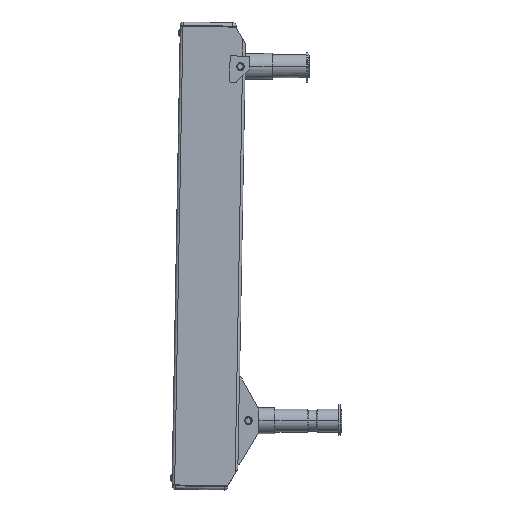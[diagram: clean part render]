
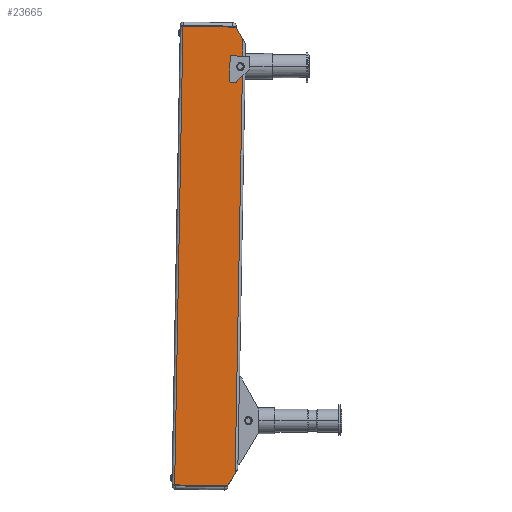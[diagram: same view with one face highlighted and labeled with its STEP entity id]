
A CAD part, left-side view. The second image highlights one B-rep face of the part: STEP entity #23665.
In plain terms, the highlighted planar face has unit normal (-1, 0, 0).
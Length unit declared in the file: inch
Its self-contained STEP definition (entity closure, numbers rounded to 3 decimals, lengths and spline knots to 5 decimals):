
#370 = VERTEX_POINT ( 'NONE', #21184 ) ;
#371 = VERTEX_POINT ( 'NONE', #21192 ) ;
#372 = VERTEX_POINT ( 'NONE', #21270 ) ;
#382 = VERTEX_POINT ( 'NONE', #21238 ) ;
#386 = VERTEX_POINT ( 'NONE', #21231 ) ;
#398 = VERTEX_POINT ( 'NONE', #21229 ) ;
#400 = VERTEX_POINT ( 'NONE', #21250 ) ;
#404 = VERTEX_POINT ( 'NONE', #21237 ) ;
#406 = VERTEX_POINT ( 'NONE', #21274 ) ;
#408 = VERTEX_POINT ( 'NONE', #21249 ) ;
#425 = VERTEX_POINT ( 'NONE', #21220 ) ;
#427 = VERTEX_POINT ( 'NONE', #21223 ) ;
#2119 = CARTESIAN_POINT ( 'NONE',  ( 0., 0.375, -8.75 ) ) ;
#2120 = DIRECTION ( 'NONE',  ( 0., 0.5, -0.866 ) ) ;
#2128 = DIRECTION ( 'NONE',  ( 0., 0., 1. ) ) ;
#2131 = CARTESIAN_POINT ( 'NONE',  ( 0., 0.1, -8.75 ) ) ;
#2191 = CARTESIAN_POINT ( 'NONE',  ( 0., 0.185, 7.25 ) ) ;
#2196 = DIRECTION ( 'NONE',  ( 0., 0., -1. ) ) ;
#2210 = CARTESIAN_POINT ( 'NONE',  ( 0., 0.12085, 7.125 ) ) ;
#2220 = DIRECTION ( 'NONE',  ( 1., 0., 0. ) ) ;
#2224 = DIRECTION ( 'NONE',  ( 0., 1., 0. ) ) ;
#2249 = CARTESIAN_POINT ( 'NONE',  ( 0., 0.375, 8.75 ) ) ;
#2257 = DIRECTION ( 'NONE',  ( 0., -0.5, -0.866 ) ) ;
#5824 = FACE_OUTER_BOUND ( 'NONE', #12261, .T. ) ;
#7228 = CARTESIAN_POINT ( 'NONE',  ( 0., 2.4, -8.75 ) ) ;
#7231 = PLANE ( 'NONE',  #15656 ) ;
#7239 = DIRECTION ( 'NONE',  ( -1., 0., 0. ) ) ;
#7245 = DIRECTION ( 'NONE',  ( 0., -1., 0. ) ) ;
#7869 = CIRCLE ( 'NONE', #18793, 0.1405 ) ;
#7871 = CIRCLE ( 'NONE', #18810, 0.1405 ) ;
#7991 = LINE ( 'NONE', #15965, #8013 ) ;
#7995 = LINE ( 'NONE', #15957, #8000 ) ;
#8000 = VECTOR ( 'NONE', #15959, 39.37008 ) ;
#8013 = VECTOR ( 'NONE', #15928, 39.37008 ) ;
#8029 = LINE ( 'NONE', #16015, #8039 ) ;
#8032 = VECTOR ( 'NONE', #2128, 39.37008 ) ;
#8039 = VECTOR ( 'NONE', #16017, 39.37008 ) ;
#8058 = VECTOR ( 'NONE', #2120, 39.37008 ) ;
#8059 = LINE ( 'NONE', #15974, #8080 ) ;
#8060 = VECTOR ( 'NONE', #16041, 39.37008 ) ;
#8061 = LINE ( 'NONE', #2119, #8058 ) ;
#8062 = LINE ( 'NONE', #2131, #8032 ) ;
#8064 = LINE ( 'NONE', #16013, #8060 ) ;
#8080 = VECTOR ( 'NONE', #15992, 39.37008 ) ;
#8105 = VECTOR ( 'NONE', #2224, 39.37008 ) ;
#8107 = LINE ( 'NONE', #2210, #8105 ) ;
#8136 = VECTOR ( 'NONE', #2257, 39.37008 ) ;
#8142 = CIRCLE ( 'NONE', #18652, 0.1405 ) ;
#8145 = LINE ( 'NONE', #2249, #8136 ) ;
#12261 = EDGE_LOOP ( 'NONE', ( #16887, #16923, #16978, #16968, #16909, #16926, #16917, #16958, #16925, #16873, #16924, #16921 ) ) ;
#15656 = AXIS2_PLACEMENT_3D ( 'NONE', #7228, #7239, #7245 ) ;
#15772 = CARTESIAN_POINT ( 'NONE',  ( 0., 0.185, 7.25 ) ) ;
#15775 = DIRECTION ( 'NONE',  ( 1., 0., 0. ) ) ;
#15776 = DIRECTION ( 'NONE',  ( 0., 0., -1. ) ) ;
#15928 = DIRECTION ( 'NONE',  ( 0., -1., 0. ) ) ;
#15957 = CARTESIAN_POINT ( 'NONE',  ( 0., 2.4, -8.75 ) ) ;
#15959 = DIRECTION ( 'NONE',  ( 0., 0., 1. ) ) ;
#15965 = CARTESIAN_POINT ( 'NONE',  ( 0., 2.4, -8.75 ) ) ;
#15974 = CARTESIAN_POINT ( 'NONE',  ( 0., -0.06488, 7.375 ) ) ;
#15992 = DIRECTION ( 'NONE',  ( 0., -1., 0. ) ) ;
#16013 = CARTESIAN_POINT ( 'NONE',  ( 0., 0.1, -8.75 ) ) ;
#16015 = CARTESIAN_POINT ( 'NONE',  ( 0., 2.4, 8.75 ) ) ;
#16017 = DIRECTION ( 'NONE',  ( 0., -1., 0. ) ) ;
#16041 = DIRECTION ( 'NONE',  ( 0., 0., 1. ) ) ;
#16694 = DIRECTION ( 'NONE',  ( 0., 0., -1. ) ) ;
#16706 = CARTESIAN_POINT ( 'NONE',  ( 0., 0.185, 7.25 ) ) ;
#16721 = DIRECTION ( 'NONE',  ( 1., 0., 0. ) ) ;
#16873 = ORIENTED_EDGE ( 'NONE', *, *, #20340, .T. ) ;
#16887 = ORIENTED_EDGE ( 'NONE', *, *, #20413, .T. ) ;
#16909 = ORIENTED_EDGE ( 'NONE', *, *, #20358, .T. ) ;
#16917 = ORIENTED_EDGE ( 'NONE', *, *, #20425, .F. ) ;
#16921 = ORIENTED_EDGE ( 'NONE', *, *, #20379, .T. ) ;
#16923 = ORIENTED_EDGE ( 'NONE', *, *, #20411, .T. ) ;
#16924 = ORIENTED_EDGE ( 'NONE', *, *, #20378, .F. ) ;
#16925 = ORIENTED_EDGE ( 'NONE', *, *, #20338, .F. ) ;
#16926 = ORIENTED_EDGE ( 'NONE', *, *, #20371, .T. ) ;
#16958 = ORIENTED_EDGE ( 'NONE', *, *, #20374, .F. ) ;
#16968 = ORIENTED_EDGE ( 'NONE', *, *, #20248, .T. ) ;
#16978 = ORIENTED_EDGE ( 'NONE', *, *, #20273, .T. ) ;
#18652 = AXIS2_PLACEMENT_3D ( 'NONE', #2191, #2220, #2196 ) ;
#18793 = AXIS2_PLACEMENT_3D ( 'NONE', #16706, #16721, #16694 ) ;
#18810 = AXIS2_PLACEMENT_3D ( 'NONE', #15772, #15775, #15776 ) ;
#20248 = EDGE_CURVE ( 'NONE', #370, #382, #7869, .T. ) ;
#20273 = EDGE_CURVE ( 'NONE', #371, #370, #7871, .T. ) ;
#20338 = EDGE_CURVE ( 'NONE', #400, #427, #7995, .T. ) ;
#20340 = EDGE_CURVE ( 'NONE', #400, #398, #7991, .T. ) ;
#20358 = EDGE_CURVE ( 'NONE', #382, #425, #8059, .T. ) ;
#20371 = EDGE_CURVE ( 'NONE', #425, #404, #8064, .T. ) ;
#20374 = EDGE_CURVE ( 'NONE', #427, #406, #8029, .T. ) ;
#20378 = EDGE_CURVE ( 'NONE', #386, #398, #8061, .T. ) ;
#20379 = EDGE_CURVE ( 'NONE', #386, #372, #8062, .T. ) ;
#20411 = EDGE_CURVE ( 'NONE', #408, #371, #8142, .T. ) ;
#20413 = EDGE_CURVE ( 'NONE', #372, #408, #8107, .T. ) ;
#20425 = EDGE_CURVE ( 'NONE', #406, #404, #8145, .T. ) ;
#21184 = CARTESIAN_POINT ( 'NONE',  ( 0., 0.185, 7.3905 ) ) ;
#21192 = CARTESIAN_POINT ( 'NONE',  ( 0., 0.185, 7.1095 ) ) ;
#21220 = CARTESIAN_POINT ( 'NONE',  ( 0., 0.1, 7.375 ) ) ;
#21223 = CARTESIAN_POINT ( 'NONE',  ( 0., 2.4, 8.75 ) ) ;
#21229 = CARTESIAN_POINT ( 'NONE',  ( 0., 0.375, -8.75 ) ) ;
#21231 = CARTESIAN_POINT ( 'NONE',  ( 0., 0.1, -8.27369 ) ) ;
#21237 = CARTESIAN_POINT ( 'NONE',  ( 0., 0.1, 8.27369 ) ) ;
#21238 = CARTESIAN_POINT ( 'NONE',  ( 0., 0.12085, 7.375 ) ) ;
#21249 = CARTESIAN_POINT ( 'NONE',  ( 0., 0.12085, 7.125 ) ) ;
#21250 = CARTESIAN_POINT ( 'NONE',  ( 0., 2.4, -8.75 ) ) ;
#21270 = CARTESIAN_POINT ( 'NONE',  ( 0., 0.1, 7.125 ) ) ;
#21274 = CARTESIAN_POINT ( 'NONE',  ( 0., 0.375, 8.75 ) ) ;
#23665 = ADVANCED_FACE ( 'NONE', ( #5824 ), #7231, .T. ) ;
